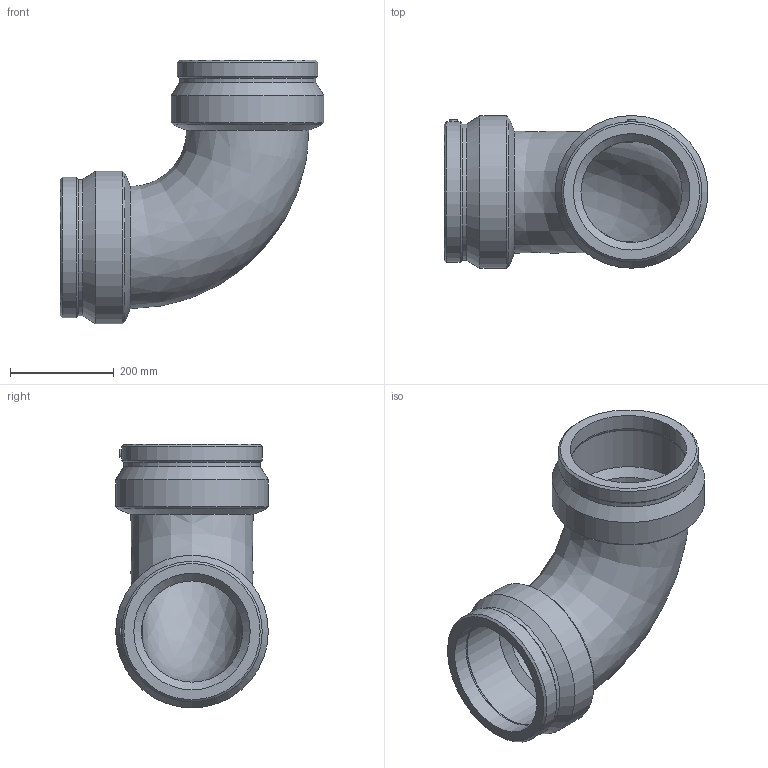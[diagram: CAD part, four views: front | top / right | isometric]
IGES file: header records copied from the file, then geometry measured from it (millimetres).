
Global section: file name: 490504225.ipt; native system: Autodesk Inventor 2015; preprocessor: unknown; author: KIM; date: 20171106.093644; units: millimetre
Bounding box: 509.8 x 295 x 509.8 mm (x, y, z)
Volume: 11101041.3 mm3; surface area: 997318 mm2
Topology: 1 solids, 1 shells, 42 faces, 98 edges, 64 vertices
Faces by surface type: revolution 12, cone 12, plane 10, cylinder 8
Full cylindrical faces by diameter (mm): 4 x2, 263.258 x2, 271.4 x2, 295 x2
